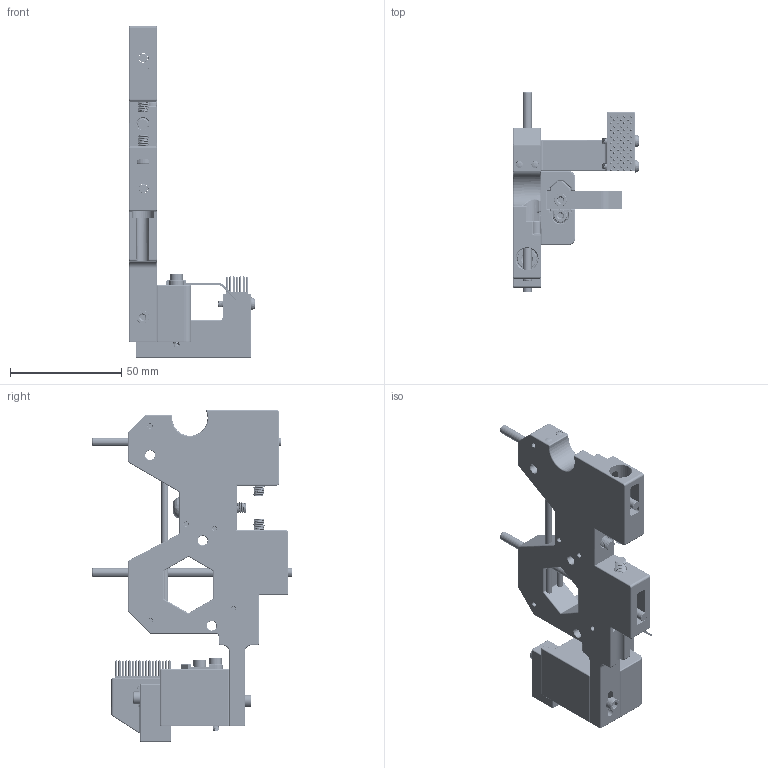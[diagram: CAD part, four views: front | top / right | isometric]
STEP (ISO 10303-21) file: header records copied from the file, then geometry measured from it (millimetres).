
FILE_DESCRIPTION(/* description */ (''),/* implementation_level */ '2;1');
FILE_NAME(/* name */ 'Daksh V2ool Dock FD v20.step',/* time_stamp */ '2024-06-21T17:44:46+07:00',/* author */ (''),/* organization */ (''),/* preprocessor_version */ 'ST-DEVELOPER v20',/* originating_system */ 'Autodesk Translation Framework v13.14.0.145',/* authorisation */ '');
FILE_SCHEMA (('AUTOMOTIVE_DESIGN { 1 0 10303 214 3 1 1 }'));
Products named in the file (36): Daksh V2ool Dock FD; Dock; Printed Parts (6); dock body (1); Hardware (1); 4 x 4mm magnet; 8 x 5mm magnet (1); 6 x 3mm magnet; m3 x 90mm dowel pin (1); m4 x 90mm dowel pin (1) (1); 8 x 5mm magnet (2); m4 x 85mm dowel pin (2); m3 x 90mm dowel pin; m5 x 30mm bhcs; m5 x 15mm shcs (1); 8 x 5mm magnet (1) (1); m5 x 8mm shcs; Oozeshield; Printed Parts; dock oozeshield slider; dock oozeshield mount (2); dock nozzle scrubber; Hardwares; m3 x 15mm bhcs; m3 x 15mm bhcs (1); m3 brass insert; m3 brass insert (2); m3 x 30mm shcs; m3 x 15mm shcs; m3 x 8mm shcs (1); m3 hex nut (1); m3 x 12mm shcs; m3 hex nut; spring ID 5mm; Silicone Brush; 0.9mm feeler gauge
Assembly tree (35 placements, depth 4):
  Daksh V2ool Dock FD
    Dock
      Printed Parts (6)
        dock body (1)
      Hardware (1)
        4 x 4mm magnet
        8 x 5mm magnet (1)
        6 x 3mm magnet
        m3 x 90mm dowel pin (1)
        m4 x 90mm dowel pin (1) (1)
        8 x 5mm magnet (2)
        m4 x 85mm dowel pin (2)
        m3 x 90mm dowel pin
        m5 x 30mm bhcs
        m5 x 15mm shcs (1)
        8 x 5mm magnet (1) (1)
        m5 x 8mm shcs
    Oozeshield
      Printed Parts
        dock oozeshield slider
        dock oozeshield mount (2)
        dock nozzle scrubber
      Hardwares
        m3 x 15mm bhcs
        m3 x 15mm bhcs (1)
        m3 brass insert
        m3 brass insert (2)
        m3 x 30mm shcs
        m3 x 15mm shcs
        m3 x 8mm shcs (1)
        m3 hex nut (1)
        m3 x 12mm shcs
        m3 hex nut
        spring ID 5mm
      Silicone Brush
      0.9mm feeler gauge
Bounding box: 56.79 x 90 x 149.33 mm (x, y, z)
Volume: 99933.2 mm3; surface area: 50857.9 mm2
Topology: 29 solids, 29 shells, 1853 faces, 4857 edges, 3055 vertices
Faces by surface type: cylinder 883, plane 362, bspline 289, cone 145, sphere 105, torus 69
Full cylindrical faces by diameter (mm): 1 x60, 2 x5, 2.356 x60, 2.376 x20, 2.5 x10, 2.9 x2, 2.927 x58, 3 x71, 3.4 x9, 3.505 x2, 3.564 x2, 3.99 x12, 4 x3, 4.2 x1, 4.3 x3, 4.7 x2, 4.751 x2, 4.901 x25, 5 x26, 5.5 x1, 5.58 x4, 5.68 x4, 5.7 x2, 6 x1, 6.2 x1, 8 x3, 8.2 x3, 8.52 x2, 8.72 x2, 10 x2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
Entity records: 166843 total; most frequent: CARTESIAN_POINT 123534, ORIENTED_EDGE 9520, DIRECTION 8113, EDGE_CURVE 4760, AXIS2_PLACEMENT_3D 3174, VERTEX_POINT 3041, EDGE_LOOP 2021, FACE_OUTER_BOUND 1853
